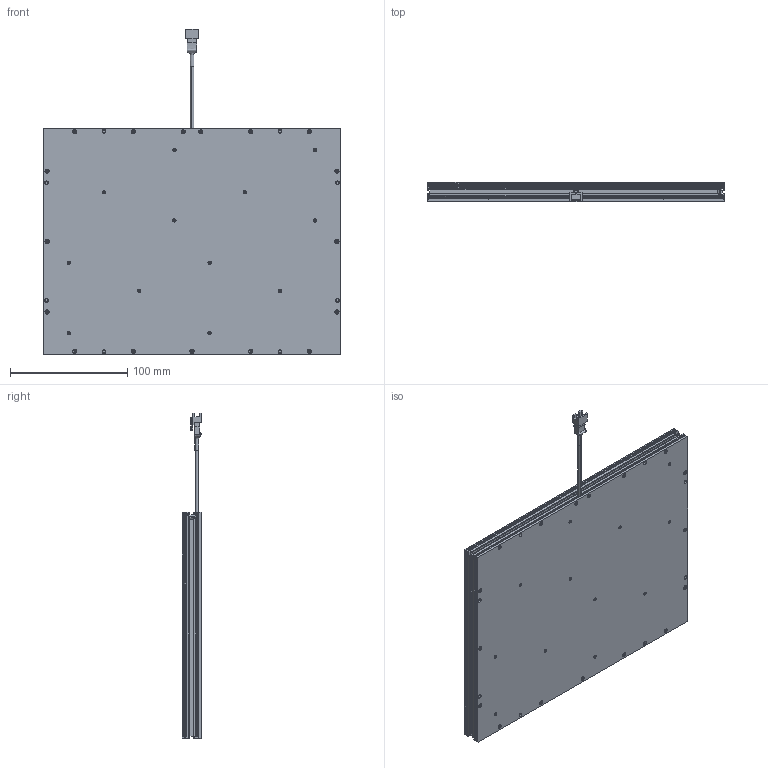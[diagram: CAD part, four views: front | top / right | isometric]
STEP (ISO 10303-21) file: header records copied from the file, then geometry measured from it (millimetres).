
FILE_DESCRIPTION (( 'STEP AP214' ), '1' );
FILE_NAME ('TMDF3007D102A_VDFP-240180.STEP', '2023-03-24T03:41:21', ( '' ), ( '' ), 'SwSTEP 2.0', 'SolidWorks 2018', '' );
FILE_SCHEMA (( 'AUTOMOTIVE_DESIGN' ));
Length unit declared in the file: millimetre
Products named in the file (1): TMDF3007D102A_VDFP-240180
Bounding box: 253 x 16.55 x 277.45 mm (x, y, z)
Surface area: 186771.7 mm2 (no closed solid volume)
Topology: 0 solids, 62 shells, 710 faces, 2524 edges, 1840 vertices
Faces by surface type: plane 440, cylinder 190, cone 78, bspline 2
Entity records: 36185 total; most frequent: CARTESIAN_POINT 6615, DIRECTION 4516, ORIENTED_EDGE 3929, EDGE_CURVE 2524, VERTEX_POINT 1840, LINE 1782, VECTOR 1782, AXIS2_PLACEMENT_3D 1367
